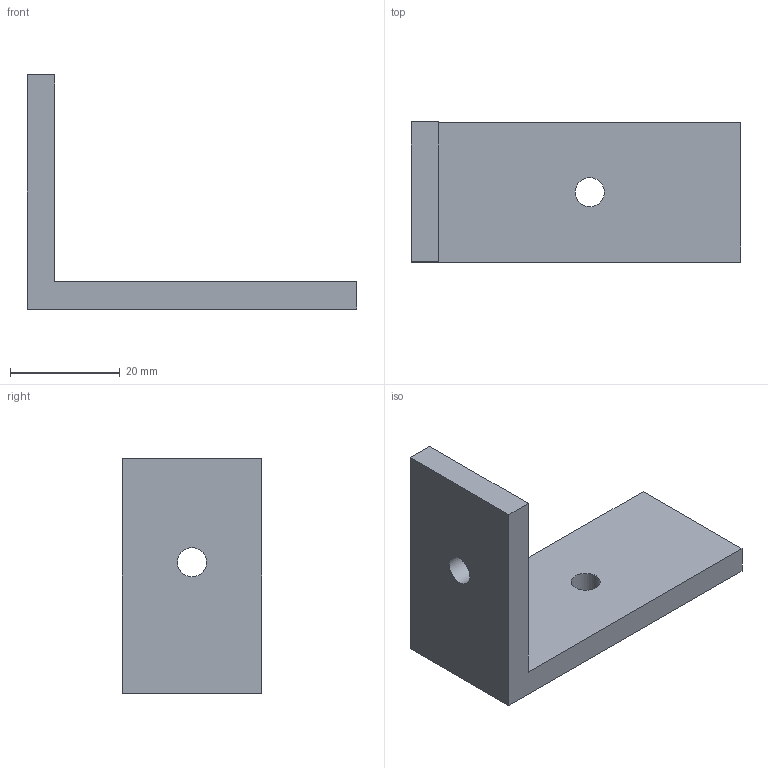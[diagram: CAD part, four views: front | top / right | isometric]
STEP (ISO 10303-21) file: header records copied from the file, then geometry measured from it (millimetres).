
FILE_DESCRIPTION(('Mechanical CAD reference from nasji.com'),'2;1');
FILE_NAME('NASJI.step','',(''),(''),'','NASJI distribution','');
FILE_SCHEMA(('AUTOMOTIVE_DESIGN { 1 0 10303 214 1 1 1 1 }'));
Length unit declared in the file: millimetre
Products named in the file (1): Open CASCADE STEP translator 7.8 148
Bounding box: 60 x 25.46 x 42.6 mm (x, y, z)
Volume: 12203.9 mm3; surface area: 6278.6 mm2
Topology: 1 solids, 1 shells, 10 faces, 24 edges, 16 vertices
Faces by surface type: plane 8, cylinder 2
Full cylindrical faces by diameter (mm): 5.3 x2
Entity records: 626 total; most frequent: CARTESIAN_POINT 113, DIRECTION 94, LINE 62, VECTOR 62, ORIENTED_EDGE 48, PCURVE 48, DEFINITIONAL_REPRESENTATION 48, EDGE_CURVE 24
